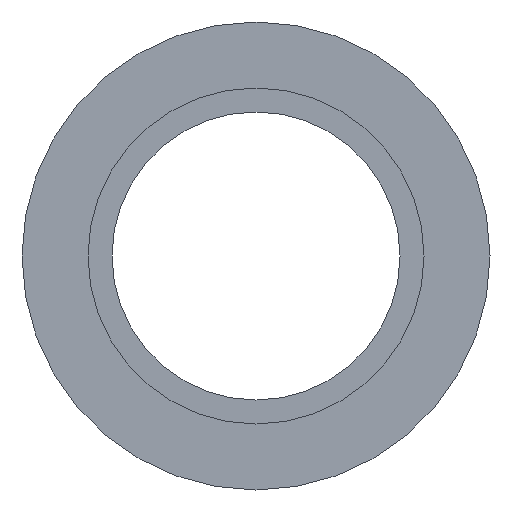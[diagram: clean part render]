
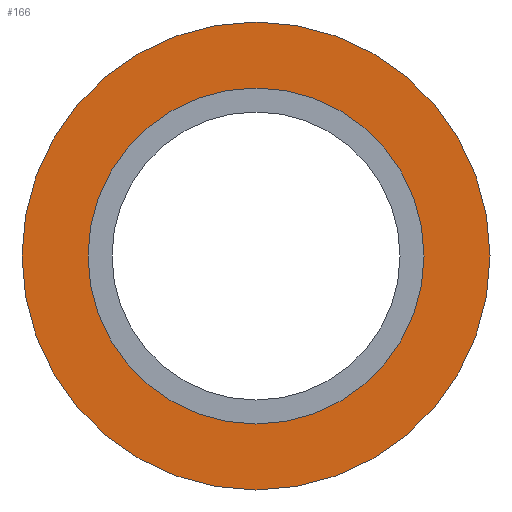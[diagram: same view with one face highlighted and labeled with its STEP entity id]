
A CAD part, front view. The second image highlights one B-rep face of the part: STEP entity #166.
In plain terms, the highlighted planar face has unit normal (0, -1, 0).
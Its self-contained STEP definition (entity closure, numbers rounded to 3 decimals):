
#30=FACE_BOUND('',#54,.T.);
#34=PLANE('',#272);
#42=FACE_OUTER_BOUND('',#53,.T.);
#53=EDGE_LOOP('',(#151,#152));
#54=EDGE_LOOP('',(#153,#154));
#72=CIRCLE('',#263,7.);
#73=CIRCLE('',#264,7.);
#75=CIRCLE('',#267,9.75);
#78=CIRCLE('',#270,9.75);
#89=VERTEX_POINT('',#366);
#90=VERTEX_POINT('',#368);
#91=VERTEX_POINT('',#373);
#92=VERTEX_POINT('',#374);
#107=EDGE_CURVE('',#90,#89,#72,.T.);
#108=EDGE_CURVE('',#89,#90,#73,.T.);
#110=EDGE_CURVE('',#91,#92,#75,.T.);
#114=EDGE_CURVE('',#92,#91,#78,.T.);
#151=ORIENTED_EDGE('',*,*,#110,.F.);
#152=ORIENTED_EDGE('',*,*,#114,.F.);
#153=ORIENTED_EDGE('',*,*,#107,.T.);
#154=ORIENTED_EDGE('',*,*,#108,.T.);
#166=ADVANCED_FACE('',(#42,#30),#34,.F.);
#263=AXIS2_PLACEMENT_3D('',#369,#312,#313);
#264=AXIS2_PLACEMENT_3D('',#370,#314,#315);
#267=AXIS2_PLACEMENT_3D('',#375,#320,#321);
#270=AXIS2_PLACEMENT_3D('',#381,#327,#328);
#272=AXIS2_PLACEMENT_3D('',#383,#331,#332);
#312=DIRECTION('center_axis',(0.,1.,0.));
#313=DIRECTION('ref_axis',(0.,0.,1.));
#314=DIRECTION('center_axis',(0.,1.,0.));
#315=DIRECTION('ref_axis',(0.,0.,1.));
#320=DIRECTION('center_axis',(0.,1.,0.));
#321=DIRECTION('ref_axis',(0.,0.,1.));
#327=DIRECTION('center_axis',(0.,1.,0.));
#328=DIRECTION('ref_axis',(0.,0.,1.));
#331=DIRECTION('center_axis',(0.,1.,0.));
#332=DIRECTION('ref_axis',(0.,0.,1.));
#366=CARTESIAN_POINT('',(0.,0.,7.));
#368=CARTESIAN_POINT('',(0.,0.,-7.));
#369=CARTESIAN_POINT('Origin',(0.,0.,0.));
#370=CARTESIAN_POINT('Origin',(0.,0.,0.));
#373=CARTESIAN_POINT('',(0.,0.,-9.75));
#374=CARTESIAN_POINT('',(0.,0.,9.75));
#375=CARTESIAN_POINT('Origin',(0.,0.,0.));
#381=CARTESIAN_POINT('Origin',(0.,0.,0.));
#383=CARTESIAN_POINT('Origin',(0.,0.,0.));
